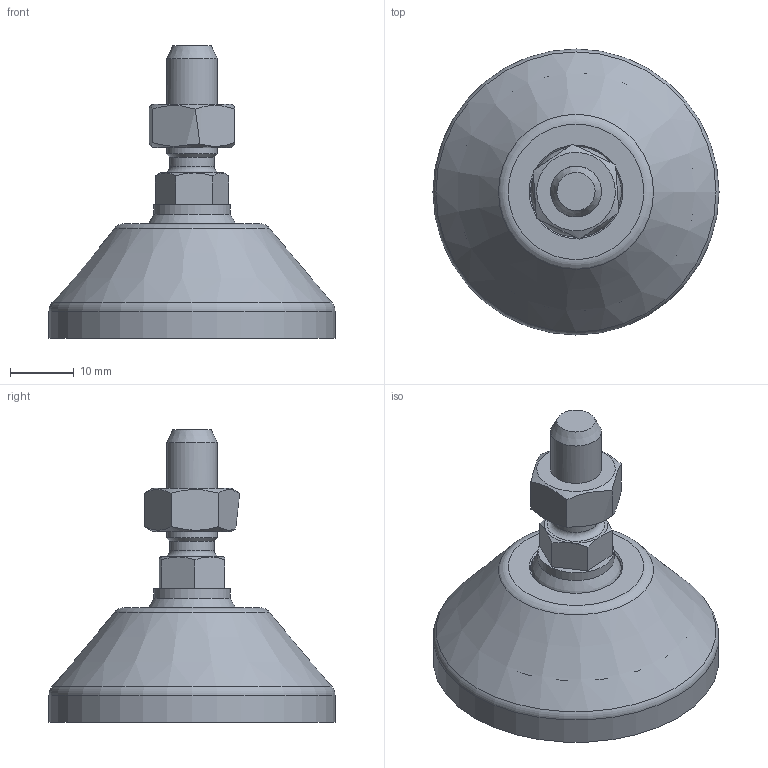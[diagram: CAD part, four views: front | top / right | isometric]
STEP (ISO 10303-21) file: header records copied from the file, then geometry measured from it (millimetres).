
FILE_DESCRIPTION(('STEP AP203'), '1');
FILE_NAME('栖闉罻', '', ('UNSPECIFIED'), ('UNSPECIFIED'), 'C3D Converter', 'C3D Toolkit', '');
FILE_SCHEMA(('CONFIG_CONTROL_DESIGN'));
Length unit declared in the file: millimetre
Products named in the file (4): A00015.1045; A00020.108040
Assembly tree (3 placements, depth 3):
  (unnamed)
    A00015.1045
    A00020.108040
      (unnamed)
Bounding box: 45 x 45 x 46 mm (x, y, z)
Volume: 15871.8 mm3; surface area: 8615 mm2
Topology: 3 solids, 3 shells, 134 faces, 380 edges, 256 vertices
Faces by surface type: plane 78, cylinder 26, cone 15, torus 13, sphere 2
Full cylindrical faces by diameter (mm): 6.647 x1, 7 x1, 8 x1, 12 x1, 14.3 x1, 15 x2, 15.5 x1, 37.3 x1, 45 x1
Entity records: 7519 total; most frequent: CARTESIAN_POINT 2829, DIRECTION 718, ORIENTED_EDGE 706, EDGE_CURVE 353, AXIS2_PLACEMENT_3D 286, VERTEX_POINT 255, EDGE_LOOP 166, FACE_BOUND 148
